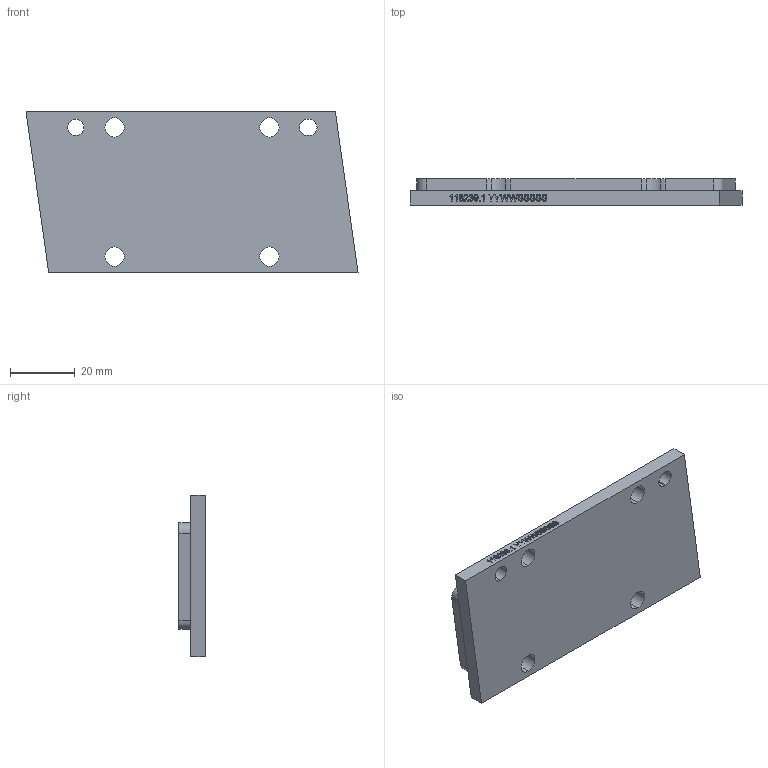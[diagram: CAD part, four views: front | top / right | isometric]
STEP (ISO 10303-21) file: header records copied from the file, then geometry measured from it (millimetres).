
FILE_DESCRIPTION (( 'STEP AP214' ), '1' );
FILE_NAME ('Cast T magnet plate TMX 96.STEP', '2023-03-30T12:42:19', ( '' ), ( '' ), 'SwSTEP 2.0', 'SolidWorks 2020', '' );
FILE_SCHEMA (( 'AUTOMOTIVE_DESIGN' ));
Length unit declared in the file: millimetre
Products named in the file (4): Glued T magnet plate TMX 96; ResinTMX96 rectangle_Resin; closing plate TMX 96_with engraving; Cast T magnet plate TMX 96
Assembly tree (3 placements, depth 3):
  Cast T magnet plate TMX 96
    Glued T magnet plate TMX 96
      closing plate TMX 96_with engraving
    ResinTMX96 rectangle_Resin
Bounding box: 102.88 x 8.2 x 50 mm (x, y, z)
Volume: 32359.5 mm3; surface area: 18239.1 mm2
Topology: 2 solids, 2 shells, 293 faces, 807 edges, 538 vertices
Faces by surface type: bspline 144, plane 119, cylinder 30
Entity records: 16917 total; most frequent: CARTESIAN_POINT 10229, ORIENTED_EDGE 1614, DIRECTION 891, EDGE_CURVE 807, VERTEX_POINT 538, VECTOR 459, LINE 459, EDGE_LOOP 325
